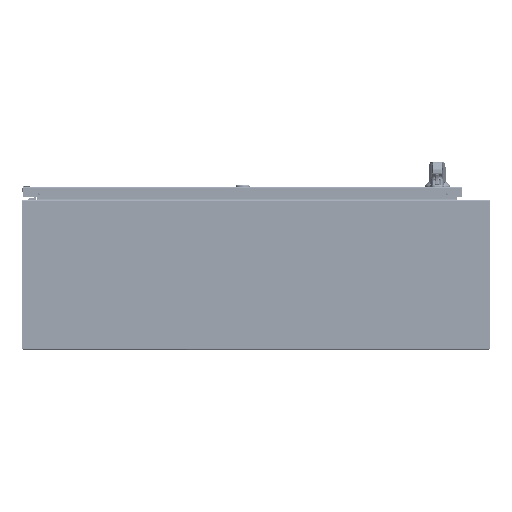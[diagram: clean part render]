
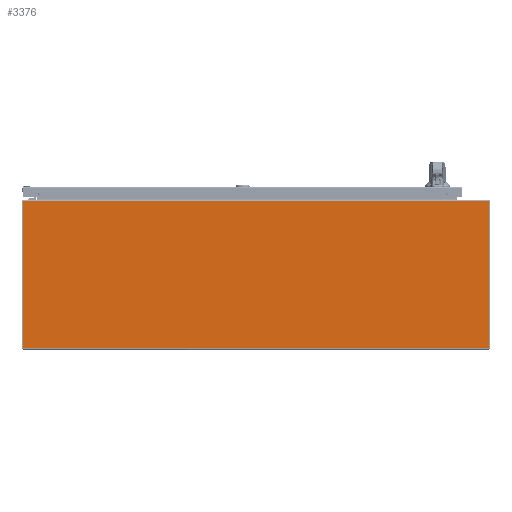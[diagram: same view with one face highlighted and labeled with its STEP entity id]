
A CAD part, left-side view. The second image highlights one B-rep face of the part: STEP entity #3376.
In plain terms, the highlighted planar face has unit normal (-1, 0, 0).
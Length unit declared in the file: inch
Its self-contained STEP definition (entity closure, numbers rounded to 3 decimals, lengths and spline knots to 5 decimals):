
#572=DIRECTION('',(0.,1.,0.));
#573=VECTOR('',#572,37.225);
#574=CARTESIAN_POINT('',(-21.,-18.6125,-5.864));
#575=LINE('',#574,#573);
#855=DIRECTION('',(0.,0.,-1.));
#856=VECTOR('',#855,11.747);
#857=CARTESIAN_POINT('',(-21.,-18.6125,5.883));
#858=LINE('',#857,#856);
#917=DIRECTION('',(0.,1.,0.));
#918=VECTOR('',#917,37.225);
#919=CARTESIAN_POINT('',(-21.,-18.6125,5.883));
#920=LINE('',#919,#918);
#969=DIRECTION('',(0.,0.,-1.));
#970=VECTOR('',#969,11.747);
#971=CARTESIAN_POINT('',(-21.,18.6125,5.883));
#972=LINE('',#971,#970);
#2325=CARTESIAN_POINT('',(-21.,-18.6125,5.883));
#2326=CARTESIAN_POINT('',(-21.,-18.6125,-5.864));
#2327=VERTEX_POINT('',#2325);
#2328=VERTEX_POINT('',#2326);
#2329=CARTESIAN_POINT('',(-21.,18.6125,5.883));
#2330=CARTESIAN_POINT('',(-21.,18.6125,-5.864));
#2331=VERTEX_POINT('',#2329);
#2332=VERTEX_POINT('',#2330);
#3364=CARTESIAN_POINT('',(-21.,-18.6125,6.));
#3365=DIRECTION('',(-1.,0.,0.));
#3366=DIRECTION('',(0.,0.,-1.));
#3367=AXIS2_PLACEMENT_3D('',#3364,#3365,#3366);
#3368=PLANE('',#3367);
#3369=ORIENTED_EDGE('',*,*,#3275,.T.);
#3370=ORIENTED_EDGE('',*,*,#3065,.T.);
#3372=ORIENTED_EDGE('',*,*,#3371,.F.);
#3373=ORIENTED_EDGE('',*,*,#3349,.F.);
#3374=EDGE_LOOP('',(#3369,#3370,#3372,#3373));
#3375=FACE_OUTER_BOUND('',#3374,.F.);
#3065=EDGE_CURVE('',#2328,#2332,#575,.T.);
#3275=EDGE_CURVE('',#2327,#2328,#858,.T.);
#3349=EDGE_CURVE('',#2327,#2331,#920,.T.);
#3371=EDGE_CURVE('',#2331,#2332,#972,.T.);
#3376=ADVANCED_FACE('',(#3375),#3368,.T.);
